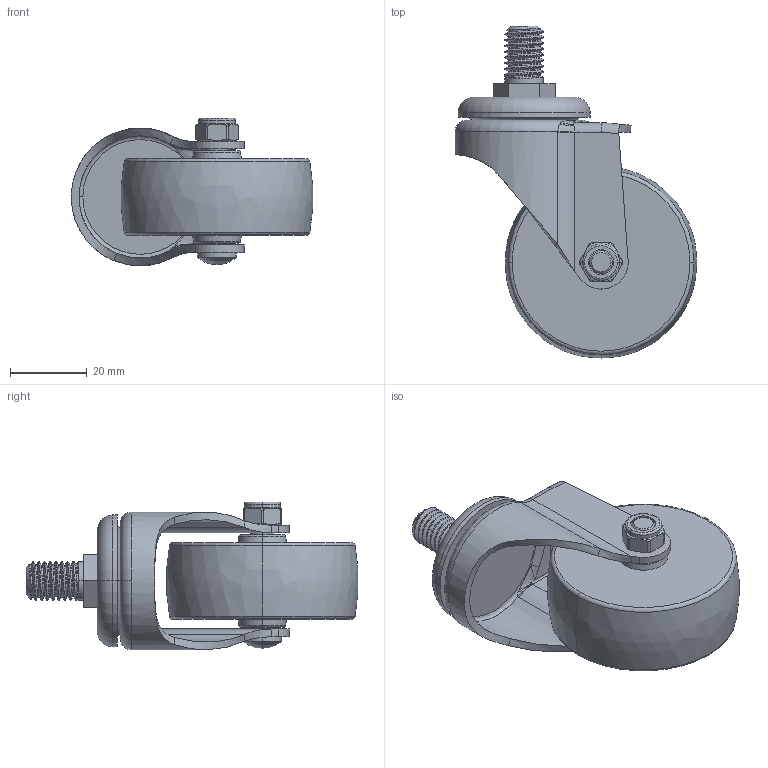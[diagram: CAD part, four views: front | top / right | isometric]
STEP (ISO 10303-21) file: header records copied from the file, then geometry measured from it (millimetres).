
FILE_DESCRIPTION((''),'2;1');
FILE_NAME('26112-262-83_ASM','2019-12-13T',('L'),(''),'PRO/ENGINEER BY PARAMETRIC TECHNOLOGY CORPORATION, 2010280','PRO/ENGINEER BY PARAMETRIC TECHNOLOGY CORPORATION, 2010280','');
FILE_SCHEMA(('CONFIG_CONTROL_DESIGN'));
Length unit declared in the file: millimetre
Products named in the file (5): 26132; 262-83; 2610-020; 2610-031; 26112-262-83_ASM
Assembly tree (4 placements, depth 2):
  26112-262-83_ASM
    26132
    262-83
    2610-020
    2610-031
Bounding box: 62.84 x 86.4 x 38.43 mm (x, y, z)
Volume: 52380 mm3; surface area: 18418.7 mm2
Topology: 4 solids, 4 shells, 194 faces, 465 edges, 283 vertices
Faces by surface type: cylinder 62, plane 43, bspline 39, torus 28, cone 20, sphere 2
Entity records: 9243 total; most frequent: CARTESIAN_POINT 4892, ORIENTED_EDGE 918, DIRECTION 837, EDGE_CURVE 459, AXIS2_PLACEMENT_3D 345, VERTEX_POINT 283, EDGE_LOOP 212, FACE_OUTER_BOUND 194
